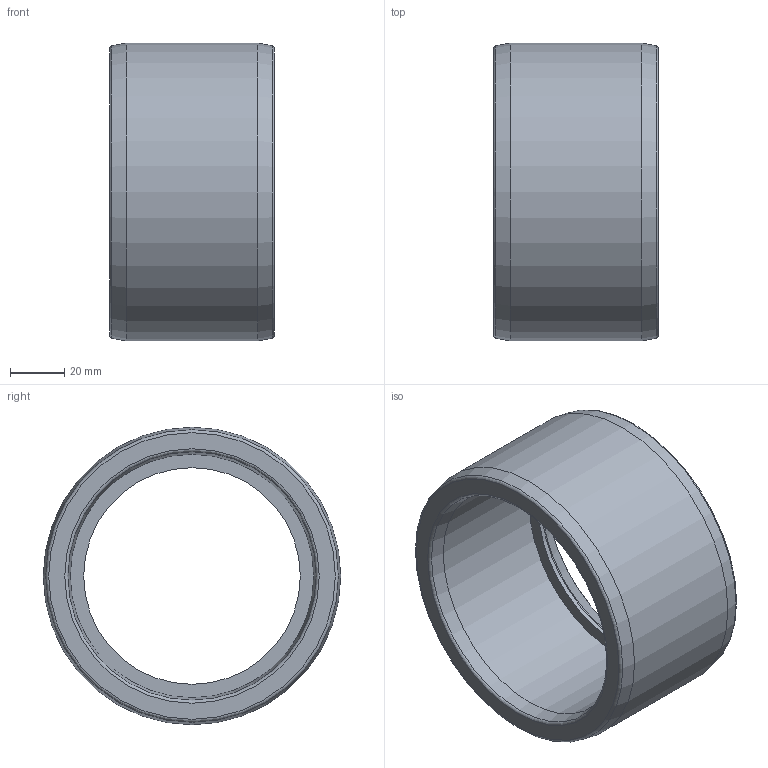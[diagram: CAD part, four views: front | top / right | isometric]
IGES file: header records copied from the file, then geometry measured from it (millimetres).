
Global section: file name: 050900110090.ipt; native system: Autodesk Inventor 2015; preprocessor: unknown; author: KIM; date: 20171207.165128; units: millimetre
Bounding box: 61 x 110 x 110 mm (x, y, z)
Volume: 195105.2 mm3; surface area: 44695.6 mm2
Topology: 1 solids, 1 shells, 15 faces, 43 edges, 31 vertices
Faces by surface type: revolution 9, plane 3, cone 2, cylinder 1
Full cylindrical faces by diameter (mm): 110 x1
